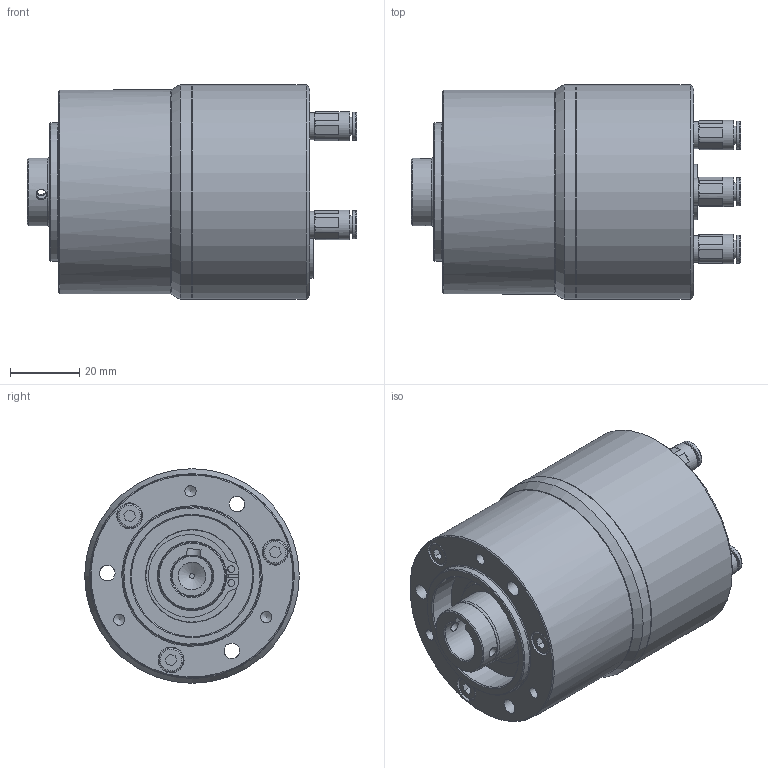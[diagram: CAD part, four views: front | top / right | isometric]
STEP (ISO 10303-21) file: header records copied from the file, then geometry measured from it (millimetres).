
FILE_DESCRIPTION(/* description */ (''),/* implementation_level */ '2;1');
FILE_NAME(/* name */ 'G:\02 CAD Dateien\02 - CAD Schrittmotoren BPS\01 - Standart Produkte\BPS 1620-23\Verkaufsunterlagen\STEP ab JULI 2017\500-16-351 Schrittmotor BPS-1620-0027.stp',/* time_stamp */ '2017-12-19T15:50:30+01:00',/* author */ ('RSc'),/* organization */ (''),/* preprocessor_version */ 'ST-DEVELOPER v16.1',/* originating_system */ 'Autodesk Inventor 2016',/* authorisation */ '');
FILE_SCHEMA (('AUTOMOTIVE_DESIGN { 1 0 10303 214 3 1 1 }'));
Length unit declared in the file: millimetre
Products named in the file (1): Bauteil5
Bounding box: 95.1 x 62 x 62 mm (x, y, z)
Volume: 198940.3 mm3; surface area: 34956.8 mm2
Topology: 12 solids, 17 shells, 345 faces, 849 edges, 553 vertices
Faces by surface type: plane 163, cylinder 68, torus 36, cone 36, bspline 31, sphere 11
Full cylindrical faces by diameter (mm): 2 x2, 3 x3, 3.242 x3, 4 x6, 4.5 x7, 5.2 x3, 7 x3, 7.5 x3, 7.8 x3, 8 x1, 8.1 x3, 8.5 x3, 9 x1, 10.5 x1, 16 x1, 19 x1, 19.5 x1, 20 x2, 25.325 x1, 26.657 x1, 26.857 x1, 35 x1, 35.343 x1, 36.675 x1, 38.675 x1, 40 x1, 42 x1, 59 x1, 62 x2
Entity records: 9993 total; most frequent: CARTESIAN_POINT 2205, DIRECTION 1492, ORIENTED_EDGE 1416, EDGE_CURVE 686, AXIS2_PLACEMENT_3D 599, EDGE_LOOP 507, VERTEX_POINT 491, ADVANCED_FACE 345
